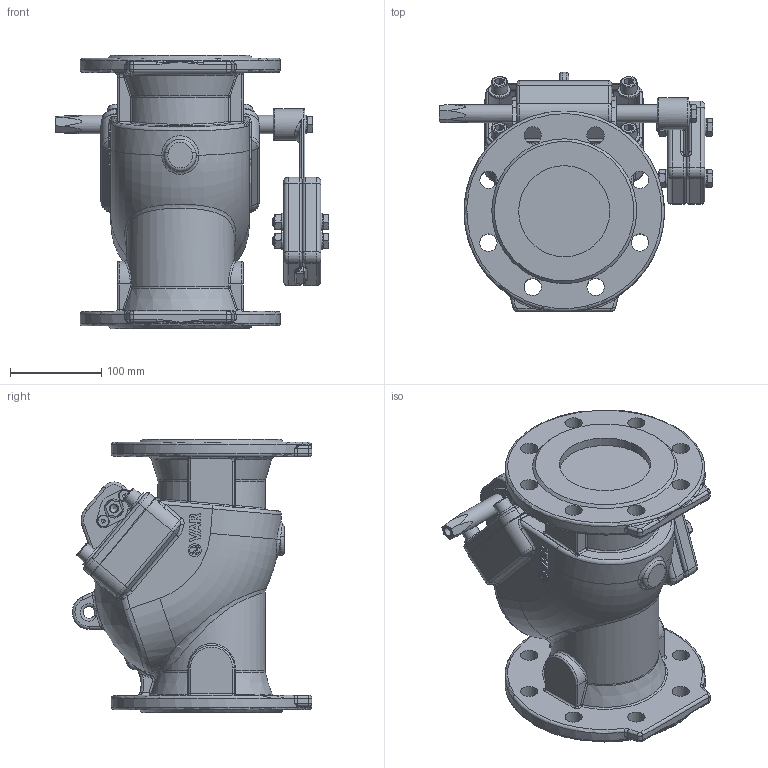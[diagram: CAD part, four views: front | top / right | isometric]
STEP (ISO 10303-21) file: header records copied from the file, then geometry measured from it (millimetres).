
FILE_DESCRIPTION(('STEP AP203'), '1');
FILE_NAME('VAR LIMU-STOP Îáðàòíûé êëàïàí DN 100 PN 16 c ðû÷àãîì è ïðîòèâîâåñîì', '2026-06-28T08:29:20', (' '), (' '), 'C3D Converter', 'C3D Toolkit', '');
FILE_SCHEMA(('CONFIG_CONTROL_DESIGN'));
Length unit declared in the file: millimetre
Products named in the file (1): Admi0C102497dl9o
Bounding box: 299.9 x 262.98 x 300 mm (x, y, z)
Volume: 7206640.1 mm3; surface area: 411767.7 mm2
Topology: 1 solids, 14 shells, 1086 faces, 2716 edges, 1678 vertices
Faces by surface type: plane 369, cylinder 256, bspline 141, extrusion 138, torus 103, cone 54, sphere 25
Full cylindrical faces by diameter (mm): 6 x4, 6.5 x4, 8.5 x2, 10 x9, 10.5 x4, 12 x8, 13 x5, 14.181 x1, 15.6 x3, 18 x4, 19 x16, 20 x7, 21 x2, 24 x4, 35 x1, 100 x2
Entity records: 65520 total; most frequent: CARTESIAN_POINT 34003, ORIENTED_EDGE 5116, DIRECTION 4078, EDGE_CURVE 2558, VERTEX_POINT 1659, AXIS2_PLACEMENT_3D 1480, EDGE_LOOP 1309, FACE_BOUND 1195
